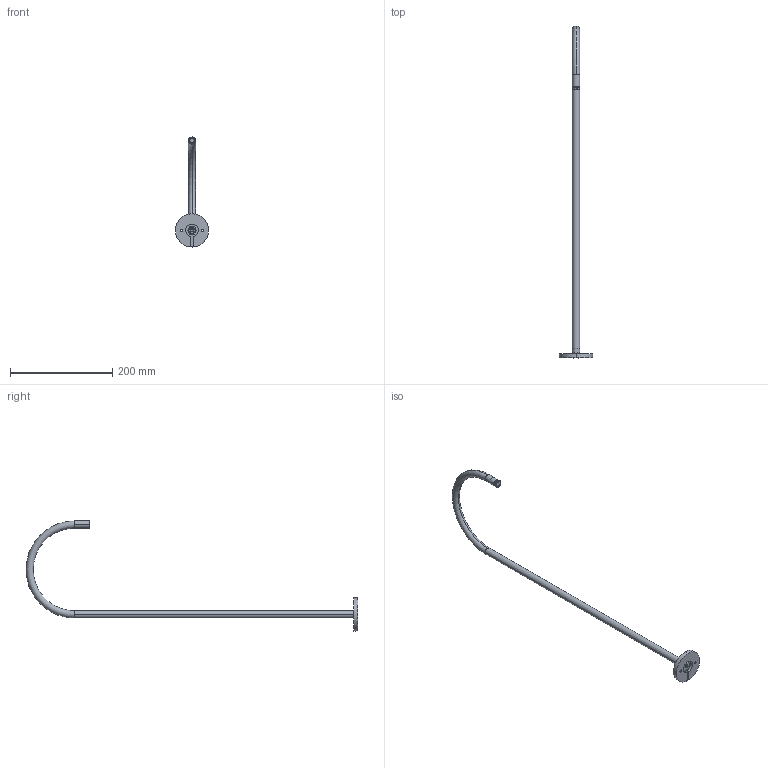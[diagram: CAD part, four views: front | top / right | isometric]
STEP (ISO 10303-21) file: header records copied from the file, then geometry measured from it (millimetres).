
FILE_DESCRIPTION (( 'STEP AP203' ), '1' );
FILE_NAME ('TWIG_65.STEP', '2026-04-27T12:15:48', ( '' ), ( '' ), 'SwSTEP 2.0', 'SolidWorks 2016', '' );
FILE_SCHEMA (( 'CONFIG_CONTROL_DESIGN' ));
Length unit declared in the file: millimetre
Products named in the file (5): 0-TWI-0001-0-26_TUBO d.14 down L=842mm_Down_550; TWIG_65; 0-TWI-0004-0-00_NIPPLO BASE M12x1 D.17 H.16.5; 0-TWI-0003-0-00_DIFFUSORE D.12 H.6.7mm M12x1 PC. TRASP_incassato; 0-TWI-0005_0-00_BASE FISSA D.65 H.8mm FRES LAT_Forato
Assembly tree (4 placements, depth 2):
  TWIG_65
    0-TWI-0001-0-26_TUBO d.14 down L=842mm_Down_550
    0-TWI-0005_0-00_BASE FISSA D.65 H.8mm FRES LAT_Forato
    0-TWI-0004-0-00_NIPPLO BASE M12x1 D.17 H.16.5
    0-TWI-0003-0-00_DIFFUSORE D.12 H.6.7mm M12x1 PC. TRASP_incassato
Bounding box: 65 x 650 x 215.5 mm (x, y, z)
Volume: 88164.9 mm3; surface area: 75304.5 mm2
Topology: 4 solids, 4 shells, 102 faces, 236 edges, 152 vertices
Faces by surface type: cylinder 55, plane 27, cone 16, torus 4
Entity records: 3495 total; most frequent: DIRECTION 594, CARTESIAN_POINT 497, ORIENTED_EDGE 472, AXIS2_PLACEMENT_3D 249, EDGE_CURVE 236, VERTEX_POINT 152, CIRCLE 140, EDGE_LOOP 122
